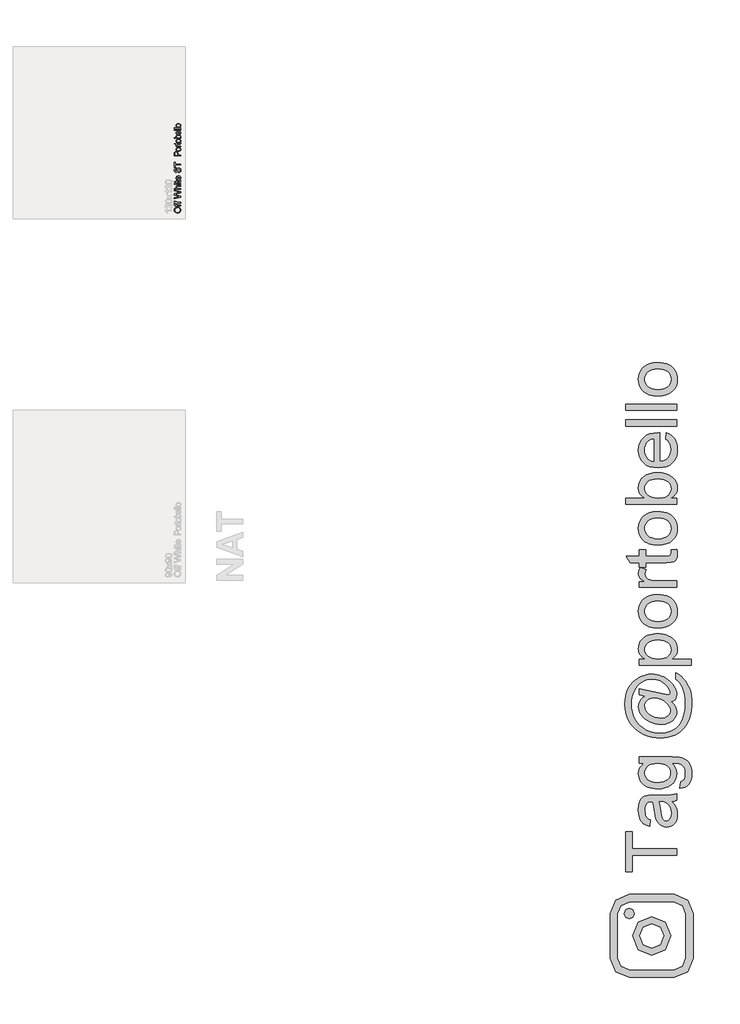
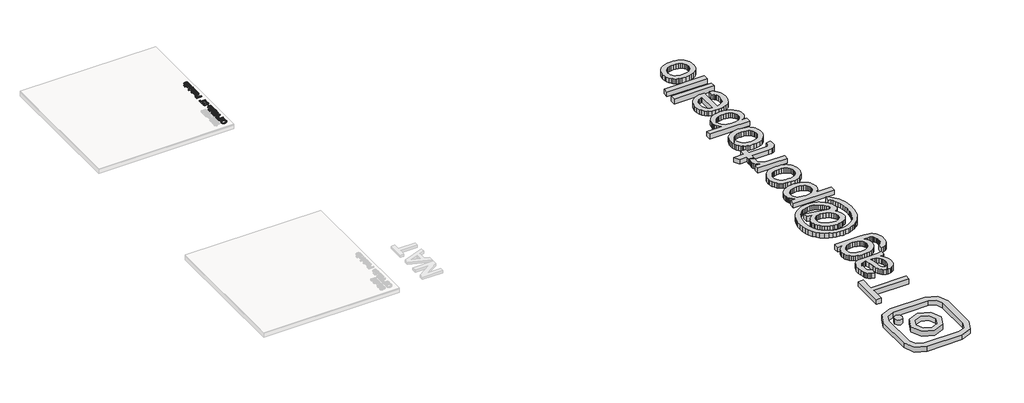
# One storey, part 7 of 19: 5 proxies.
"""IFC4 building model written with IfcOpenShell, lengths in millimetres."""

from ifc_helpers import new_model, si_unit, frame, origin, origin_with_axes, place, context, project, spatial, polyline, outline, extrude, transform, mapped, element, save
from components import generic_models_d67f6705

model = new_model("IFC4")

# Units and contexts
model_context = context("Model", 3, world=origin())
ifc_project = project(units=[si_unit("LENGTHUNIT", "METRE", prefix="MILLI")], contexts=[model_context])

# Site, building, storey
site = spatial("IfcSite", under=ifc_project)
building = spatial("IfcBuilding", under=site)
storey = spatial("IfcBuildingStorey", under=building, Name="PORTOBELLO - SHOWROOM", Elevation=0.0)

# Proxies
placement = place(None, origin())
generic_models_shape = generic_models_d67f6705(model_context)
element("IfcBuildingElementProxy", 1, Name="Blks_Instagram1 : Único", ObjectType="Blks_Instagram1 : Único", at=placement, inside=storey, context=model_context, shape_type="MappedRepresentation", body=[
    mapped(generic_models_shape, transform((18909.981, -12631.2406298, 0.0), x_axis=(-1.0, 0.0, 0.0), y_axis=(0.0, -1.0, 0.0), z_axis=(0.0, 0.0, 1.0))),
])
element("IfcBuildingElementProxy", 2, Name="10mm Arial", ObjectType="10mm Arial", at=placement, inside=storey, context=model_context, shape_type="SweptSolid", body=[
    extrude(outline(polyline([(11482.3367439, -1306.5341901), (11460.1228028, -1303.186464), (11443.316727, -1293.1432855), (11432.7401196, -1277.8087377), (11429.2145838, -1258.5869034), (11430.8700528, -1245.4105966), (11435.8364597, -1233.5954532), (11443.7643167, -1223.7852667), (11454.3041359, -1216.6238305), (11466.9470138, -1212.2460348), (11481.184047, -1210.7867695), (11495.6111526, -1212.3226769), (11508.4318401, -1216.9303988), (11518.9900534, -1224.3554838), (11526.6297361, -1234.34348), (11531.2650493, -1246.0574558), (11532.8101537, -1258.6604798), (11531.1025681, -1272.0391217), (11525.9798113, -1283.9217102), (11517.9048015, -1293.7073712), (11507.3404569, -1300.795231), (11482.3367439, -1306.5341901)]), holes=[polyline([(11482.4593712, -1293.9771514), (11498.1740638, -1291.4663568), (11510.1486227, -1283.9339729), (11517.7269918, -1272.6124045), (11520.2531149, -1258.7340562), (11517.7024664, -1244.6533729), (11510.0505209, -1233.3134104), (11497.7080799, -1225.8362088), (11481.0859451, -1223.3438083), (11460.3619261, -1227.6112394), (11446.6399276, -1240.0824391), (11441.7716226, -1258.513327), (11444.1168703, -1272.0207276), (11451.1526135, -1283.5047772), (11463.6697983, -1291.3590578), (11482.4593712, -1293.9771514)])]), frame((0.0, 0.0, 17.0), z_axis=(0.0, 0.0, 1.0), x_axis=(1.0, 0.0, 0.0)), (0.0, 0.0, 1.0), 20.0),
    extrude(outline(polyline([(11531.2405238, -1151.1408354), (11470.0249598, -1151.1408354), (11470.0249598, -1162.1282443), (11457.467921, -1162.1282443), (11457.467921, -1151.1408354), (11450.0367047, -1151.1408354), (11439.5643306, -1149.8164602), (11432.0840634, -1143.390788), (11429.2145838, -1130.7356474), (11430.5880099, -1119.2822546), (11442.3602338, -1121.1216646), (11441.7716226, -1128.3566771), (11443.8562872, -1136.26614), (11451.63086, -1138.5837966), (11457.467921, -1138.5837966), (11457.467921, -1124.457128), (11470.0249598, -1124.457128), (11470.0249598, -1138.5837966), (11531.2405238, -1138.5837966), (11531.2405238, -1151.1408354)])), frame((0.0, 0.0, 17.0), z_axis=(0.0, 0.0, 1.0), x_axis=(1.0, 0.0, 0.0)), (0.0, 0.0, 1.0), 20.0),
    extrude(outline(polyline([(11531.2405238, -1191.9512114), (11470.0249598, -1191.9512114), (11470.0249598, -1202.9386203), (11457.467921, -1202.9386203), (11457.467921, -1191.9512114), (11450.0367047, -1191.9512114), (11439.5643306, -1190.6268362), (11432.0840634, -1184.201164), (11429.2145838, -1171.5460234), (11430.5880099, -1160.0926306), (11442.3602338, -1161.9320406), (11441.7716226, -1169.1670531), (11443.8562872, -1177.076516), (11451.63086, -1179.3941726), (11457.467921, -1179.3941726), (11457.467921, -1165.267504), (11470.0249598, -1165.267504), (11470.0249598, -1179.3941726), (11531.2405238, -1179.3941726), (11531.2405238, -1191.9512114)])), frame((0.0, 0.0, 17.0), z_axis=(0.0, 0.0, 1.0), x_axis=(1.0, 0.0, 0.0)), (0.0, 0.0, 1.0), 20.0),
    extrude(outline(polyline([(11531.2405238, -1054.6821762), (11430.7842137, -1082.0771221), (11430.7842137, -1069.1276759), (11496.8067691, -1053.2351737), (11517.1874316, -1048.3300805), (11499.1612138, -1043.0816307), (11430.7842137, -1023.166952), (11430.7842137, -1004.5030721), (11480.3501811, -990.033047), (11517.1874316, -979.2663672), (11497.3953802, -974.5084268), (11430.7842137, -958.4932972), (11430.7842137, -945.5193255), (11531.2405238, -972.889746), (11531.2405238, -986.3297015), (11453.7400502, -1010.438235), (11442.9243195, -1013.7982238), (11455.9473421, -1017.5751457), (11531.2405238, -1039.525438), (11531.2405238, -1054.6821762)])), frame((0.0, 0.0, 17.0), z_axis=(0.0, 0.0, 1.0), x_axis=(1.0, 0.0, 0.0)), (0.0, 0.0, 1.0), 20.0),
    extrude(outline(polyline([(11531.2405238, -934.5319166), (11430.7842137, -934.5319166), (11430.7842137, -921.9748778), (11467.719566, -921.9748778), (11458.8536099, -912.1830854), (11455.8982912, -900.1226873), (11459.12339, -886.0205442), (11468.038397, -877.4611564), (11484.5440359, -874.8859825), (11531.2405238, -874.8859825), (11531.2405238, -887.4430212), (11485.8438856, -887.4430212), (11472.6001338, -891.4406722), (11468.45533, -902.7714377), (11471.2512331, -913.0598708), (11478.8296022, -919.9270014), (11492.0488286, -921.9748778), (11531.2405238, -921.9748778), (11531.2405238, -934.5319166)])), frame((0.0, 0.0, 17.0), z_axis=(0.0, 0.0, 1.0), x_axis=(1.0, 0.0, 0.0)), (0.0, 0.0, 1.0), 20.0),
    extrude(outline(polyline([(11443.3412524, -857.6200542), (11430.7842137, -857.6200542), (11430.7842137, -845.0630154), (11443.3412524, -845.0630154), (11443.3412524, -857.6200542)])), frame((0.0, 0.0, 17.0), z_axis=(0.0, 0.0, 1.0), x_axis=(1.0, 0.0, 0.0)), (0.0, 0.0, 1.0), 20.0),
    extrude(outline(polyline([(11531.2405238, -857.6200542), (11457.467921, -857.6200542), (11457.467921, -845.0630154), (11531.2405238, -845.0630154), (11531.2405238, -857.6200542)])), frame((0.0, 0.0, 17.0), z_axis=(0.0, 0.0, 1.0), x_axis=(1.0, 0.0, 0.0)), (0.0, 0.0, 1.0), 20.0),
    extrude(outline(polyline([(11520.7681497, -799.5437499), (11531.6084058, -797.97412), (11532.8101537, -807.3673736), (11530.725489, -817.8887987), (11525.25631, -823.1372485), (11511.0070141, -824.6578274), (11470.0249598, -824.6578274), (11470.0249598, -834.0756065), (11457.467921, -834.0756065), (11457.467921, -824.6578274), (11439.5398051, -824.6578274), (11432.1576398, -812.1007886), (11457.467921, -812.1007886), (11457.467921, -799.5437499), (11470.0249598, -799.5437499), (11470.0249598, -812.1007886), (11510.6391321, -812.1007886), (11517.1138552, -811.438601), (11519.4069863, -809.2926227), (11520.2531149, -805.0129288), (11520.7681497, -799.5437499)])), frame((0.0, 0.0, 17.0), z_axis=(0.0, 0.0, 1.0), x_axis=(1.0, 0.0, 0.0)), (0.0, 0.0, 1.0), 20.0),
    extrude(outline(polyline([(11509.265706, -735.336079), (11510.8353358, -723.0242949), (11520.1120934, -727.4603386), (11527.0466691, -734.5390013), (11531.3692825, -744.1008675), (11532.8101537, -755.9865216), (11530.3238845, -770.7201955), (11522.865077, -782.0570923), (11510.9181093, -789.2859736), (11494.9673591, -791.6956006), (11478.4801143, -789.2614481), (11466.1499361, -781.9589905), (11458.4612024, -770.7753778), (11455.8982912, -756.6977601), (11458.4550711, -743.0585352), (11466.1254107, -732.1600311), (11478.4310634, -725.0139233), (11494.8937827, -722.6318874), (11498.278297, -722.7054638), (11498.278297, -779.1385619), (11507.677682, -776.9649924), (11514.5877322, -771.915812), (11518.8367692, -764.6286828), (11520.2531149, -755.741267), (11517.62889, -743.4294829), (11509.265706, -735.336079)]), holes=[polyline([(11485.7212583, -779.1385619), (11485.7212583, -735.1889262), (11474.3414419, -740.2166468), (11469.9268579, -747.5374985), (11468.45533, -756.7468111), (11473.1519568, -772.2101176), (11478.6425955, -777.075357), (11485.7212583, -779.1385619)])]), frame((0.0, 0.0, 17.0), z_axis=(0.0, 0.0, 1.0), x_axis=(1.0, 0.0, 0.0)), (0.0, 0.0, 1.0), 20.0),
    extrude(outline(polyline([(11496.7086672, -673.9733622), (11496.7086672, -661.4163234), (11509.2779687, -657.3696215), (11517.2242198, -647.4858585), (11520.2531149, -632.4272222), (11517.9599838, -619.3060977), (11511.6569389, -610.8325491), (11503.2324412, -608.0489086), (11495.3965547, -610.1335733), (11489.6943838, -618.6684356), (11484.8996551, -636.9521707), (11478.7069749, -656.6338575), (11469.3627722, -667.3146981), (11456.8793098, -670.8341025), (11442.6668021, -666.4808322), (11432.6358864, -653.7643779), (11429.2145838, -635.1495489), (11432.7953019, -615.2839212), (11443.316727, -602.0401694), (11459.0375509, -597.0614997), (11459.0375509, -609.6185385), (11451.5450209, -611.9239323), (11446.1371556, -616.7309237), (11441.7716226, -634.6590396), (11446.0881047, -652.6362064), (11456.5114279, -658.2770637), (11465.2179684, -654.2794127), (11472.2322518, -633.7761228), (11478.5352966, -611.5560503), (11488.7133652, -599.4036817), (11502.9136102, -595.4918699), (11517.9354583, -599.9922929), (11528.8983418, -612.9417392), (11532.8101537, -631.9367129), (11528.5917734, -654.3652518), (11515.8875819, -668.5532341), (11496.7086672, -673.9733622)])), frame((0.0, 0.0, 17.0), z_axis=(0.0, 0.0, 1.0), x_axis=(1.0, 0.0, 0.0)), (0.0, 0.0, 1.0), 20.0),
    extrude(outline(polyline([(11531.2405238, -551.5422342), (11443.3412524, -551.5422342), (11443.3412524, -584.5044609), (11430.7842137, -584.5044609), (11430.7842137, -506.0229686), (11443.3412524, -506.0229686), (11443.3412524, -538.9851954), (11531.2405238, -538.9851954), (11531.2405238, -551.5422342)])), frame((0.0, 0.0, 17.0), z_axis=(0.0, 0.0, 1.0), x_axis=(1.0, 0.0, 0.0)), (0.0, 0.0, 1.0), 20.0),
])
element("IfcBuildingElementProxy", 3, Name="10mm Arial Narrow", ObjectType="10mm Arial Narrow", at=placement, inside=storey, context=model_context, shape_type="SweptSolid", body=[
    extrude(outline(polyline([(11531.2405238, -407.1065049), (11430.5219201, -407.1065049), (11430.5219201, -375.8096202), (11432.4002408, -359.5139187), (11441.880684, -348.0409326), (11458.8997928, -343.7512541), (11470.9756183, -345.5375625), (11480.6020121, -350.8964877), (11486.9032705, -360.6402765), (11489.00369, -375.5811758), (11489.00369, -397.3595432), (11531.2405238, -397.3595432), (11531.2405238, -407.1065049)]), holes=[polyline([(11477.6322347, -397.3595432), (11477.6322347, -374.3881883), (11473.1014205, -358.5239929), (11459.4328297, -353.4982158), (11449.2670533, -355.9730303), (11443.4671035, -361.9506591), (11441.8933753, -374.6166327), (11441.8933753, -397.3595432), (11477.6322347, -397.3595432)])]), frame((0.0, 0.0, 17.0), z_axis=(0.0, 0.0, 1.0), x_axis=(1.0, 0.0, 0.0)), (0.0, 0.0, 1.0), 20.0),
    extrude(outline(polyline([(11494.6894176, -335.6287861), (11478.0986421, -333.6743172), (11466.1465572, -327.8109106), (11458.9220027, -318.9523439), (11456.5138178, -308.0123947), (11458.9220027, -297.1993591), (11466.1465572, -288.3154097), (11477.9082717, -282.375855), (11493.9279362, -280.3960034), (11511.0898228, -282.3409537), (11523.232278, -288.1758048), (11530.4568326, -297.024853), (11532.8650174, -308.0123947), (11530.4504869, -318.8730229), (11523.2068953, -327.7474538), (11511.2484648, -333.658453), (11494.6894176, -335.6287861)]), holes=[polyline([(11494.6640349, -325.8818244), (11507.2157863, -324.5777876), (11516.0870444, -320.665677), (11521.3603029, -314.8244802), (11523.1180558, -307.7331849), (11521.3444387, -301.0131117), (11516.0235876, -295.3210384), (11507.1364653, -291.4374834), (11494.6640349, -290.142965), (11482.1503576, -291.4470019), (11473.2917908, -295.3591125), (11468.0185323, -301.2003092), (11466.2607794, -308.2916046), (11468.0280508, -315.0592703), (11473.3298649, -320.7418251), (11482.1979501, -324.5968246), (11494.6640349, -325.8818244)])]), frame((0.0, 0.0, 17.0), z_axis=(0.0, 0.0, 1.0), x_axis=(1.0, 0.0, 0.0)), (0.0, 0.0, 1.0), 20.0),
    extrude(outline(polyline([(11523.1180558, -208.9182846), (11532.8650174, -207.293791), (11532.8650174, -214.6547776), (11530.7455609, -222.929542), (11524.9456111, -227.2446031), (11510.2997859, -228.4122079), (11467.8852731, -228.4122079), (11467.8852731, -236.5346759), (11464.6362858, -236.5346759), (11469.5097667, -238.1591695), (11467.8852731, -245.7232179), (11470.2077913, -251.8023776), (11476.6930743, -255.6732413), (11492.1003809, -257.6530929), (11531.2405238, -257.6530929), (11531.2405238, -267.4000545), (11458.1383114, -267.4000545), (11458.1383114, -257.6530929), (11467.8345076, -257.6530929), (11458.7474965, -251.4089455), (11456.5138178, -245.012502), (11458.1383114, -236.5346759), (11458.1383114, -228.4122079), (11441.8933753, -228.4122079), (11433.7709073, -218.6652462), (11458.1383114, -218.6652462), (11458.1383114, -208.9182846), (11467.8852731, -208.9182846), (11467.8852731, -218.6652462), (11512.5334646, -218.6652462), (11520.5290191, -217.802234), (11523.1180558, -213.1825803), (11523.1180558, -208.9182846)])), frame((0.0, 0.0, 17.0), z_axis=(0.0, 0.0, 1.0), x_axis=(1.0, 0.0, 0.0)), (0.0, 0.0, 1.0), 20.0),
    extrude(outline(polyline([(11494.6894176, -202.4203101), (11478.0986421, -200.4658413), (11466.1465572, -194.6024347), (11458.9220027, -185.7438679), (11456.5138178, -174.8039188), (11458.9220027, -163.9908832), (11466.1465572, -155.1069338), (11477.9082717, -149.167379), (11493.9279362, -147.1875274), (11511.0898228, -149.1324778), (11523.232278, -154.9673289), (11530.4568326, -163.8163771), (11532.8650174, -174.8039188), (11530.4504869, -185.664547), (11523.2068953, -194.5389779), (11511.2484648, -200.4499771), (11494.6894176, -202.4203101)]), holes=[polyline([(11494.6640349, -192.6733485), (11507.2157863, -191.3693116), (11516.0870444, -187.457201), (11521.3603029, -181.6160043), (11523.1180558, -174.524709), (11521.3444387, -167.8046358), (11516.0235876, -162.1125625), (11507.1364653, -158.2290074), (11494.6640349, -156.9344891), (11482.1503576, -158.238526), (11473.2917908, -162.1506365), (11468.0185323, -167.9918333), (11466.2607794, -175.0831286), (11468.0280508, -181.8507944), (11473.3298649, -187.5333492), (11482.1979501, -191.3883487), (11494.6640349, -192.6733485)])]), frame((0.0, 0.0, 17.0), z_axis=(0.0, 0.0, 1.0), x_axis=(1.0, 0.0, 0.0)), (0.0, 0.0, 1.0), 20.0),
    extrude(outline(polyline([(11531.2405238, -124.4446169), (11531.2405238, -134.1915786), (11430.5219201, -134.1915786), (11430.5219201, -124.4446169), (11465.9308042, -124.4446169), (11458.8490274, -117.0455562), (11456.5138178, -107.8443229), (11460.7146567, -94.9625962), (11473.4440871, -85.6852147), (11494.1309979, -82.2077831), (11510.5853414, -84.1400421), (11522.7880805, -89.9368191), (11530.3457832, -98.3099414), (11532.8650174, -107.9712364), (11530.250598, -117.3120747), (11522.4834879, -124.4446169), (11531.2405238, -124.4446169)]), holes=[polyline([(11494.1309979, -124.4446169), (11511.3785512, -122.3632345), (11520.1102043, -116.4744452), (11523.1180558, -108.0220018), (11521.3285745, -102.0792742), (11515.9601308, -96.8409169), (11494.5371213, -91.9547447), (11473.1014205, -96.6632379), (11467.9709397, -101.9079409), (11466.2607794, -108.2250635), (11468.0502607, -114.2026924), (11473.4187044, -119.494988), (11494.1309979, -124.4446169)])]), frame((0.0, 0.0, 17.0), z_axis=(0.0, 0.0, 1.0), x_axis=(1.0, 0.0, 0.0)), (0.0, 0.0, 1.0), 20.0),
    extrude(outline(polyline([(11508.4976133, -30.2239876), (11510.1221069, -20.477026), (11520.0086735, -24.1765563), (11527.1285244, -29.9955432), (11531.4308941, -37.6991965), (11532.8650174, -47.0527261), (11530.4504869, -58.6462801), (11523.2068953, -67.7904023), (11511.400761, -73.7299571), (11495.2986027, -75.7098087), (11478.631679, -73.7204386), (11466.4511498, -67.7523282), (11458.9981508, -58.7382924), (11456.5138178, -47.6111458), (11458.9124841, -36.9281966), (11466.1084832, -28.1806792), (11477.8479878, -22.3458282), (11493.8771708, -20.4008778), (11497.126158, -20.477026), (11497.126158, -65.962847), (11516.5693159, -59.9598355), (11521.4808708, -54.0297992), (11523.1180558, -46.9258125), (11519.4629451, -36.7473448), (11508.4976133, -30.2239876)]), holes=[polyline([(11487.3791964, -65.3028965), (11487.3791964, -30.2239876), (11473.1141119, -34.4882833), (11467.9741126, -40.3136159), (11466.2607794, -47.5349976), (11471.9718898, -59.7440824), (11487.3791964, -65.3028965)])]), frame((0.0, 0.0, 17.0), z_axis=(0.0, 0.0, 1.0), x_axis=(1.0, 0.0, 0.0)), (0.0, 0.0, 1.0), 20.0),
    extrude(outline(polyline([(11531.2405238, -7.4810771), (11430.5219201, -7.4810771), (11430.5219201, 2.2658846), (11531.2405238, 2.2658846), (11531.2405238, -7.4810771)])), frame((0.0, 0.0, 17.0), z_axis=(0.0, 0.0, 1.0), x_axis=(1.0, 0.0, 0.0)), (0.0, 0.0, 1.0), 20.0),
    extrude(outline(polyline([(11531.2405238, 18.5108207), (11430.5219201, 18.5108207), (11430.5219201, 28.2577823), (11531.2405238, 28.2577823), (11531.2405238, 18.5108207)])), frame((0.0, 0.0, 17.0), z_axis=(0.0, 0.0, 1.0), x_axis=(1.0, 0.0, 0.0)), (0.0, 0.0, 1.0), 20.0),
    extrude(outline(polyline([(11494.6894176, 39.6292376), (11478.0986421, 41.5837065), (11466.1465572, 47.4471131), (11458.9220027, 56.3056798), (11456.5138178, 67.2456289), (11458.9220027, 78.0586645), (11466.1465572, 86.9426139), (11477.9082717, 92.8821687), (11493.9279362, 94.8620203), (11511.0898228, 92.9170699), (11523.232278, 87.0822189), (11530.4568326, 78.2331707), (11532.8650174, 67.2456289), (11530.4504869, 56.3850008), (11523.2068953, 47.5105699), (11511.2484648, 41.5995706), (11494.6894176, 39.6292376)]), holes=[polyline([(11494.6640349, 49.3761992), (11507.2157863, 50.6802361), (11516.0870444, 54.5923467), (11521.3603029, 60.4335434), (11523.1180558, 67.5248388), (11521.3444387, 74.2449119), (11516.0235876, 79.9369853), (11507.1364653, 83.8205403), (11494.6640349, 85.1150586), (11482.1503576, 83.8110218), (11473.2917908, 79.8989112), (11468.0185323, 74.0577144), (11466.2607794, 66.9664191), (11468.0280508, 60.1987533), (11473.3298649, 54.5161985), (11482.1979501, 50.6611991), (11494.6640349, 49.3761992)])]), frame((0.0, 0.0, 17.0), z_axis=(0.0, 0.0, 1.0), x_axis=(1.0, 0.0, 0.0)), (0.0, 0.0, 1.0), 20.0),
])
element("IfcBuildingElementProxy", 4, Name="80mm Arial", ObjectType="80mm Arial", at=placement, inside=storey, context=model_context, shape_type="SweptSolid", body=[
    extrude(outline(polyline([(19301.6939847, -11363.1133966), (18602.2288737, -11363.1133966), (18602.2288737, -11625.4128133), (18502.3052864, -11625.4128133), (18502.3052864, -11000.8903927), (18602.2288737, -11000.8903927), (18602.2288737, -11263.1898093), (19301.6939847, -11263.1898093), (19301.6939847, -11363.1133966)])), origin_with_axes(), (0.0, 0.0, 1.0), 100.0),
    extrude(outline(polyline([(19226.7512942, -10526.2533531), (19267.6867873, -10573.9951647), (19282.8485328, -10598.3966706), (19294.4729442, -10623.1519099), (19309.2565609, -10674.8457774), (19314.1844331, -10730.198956), (19311.2203912, -10774.6900796), (19302.3282653, -10813.7044344), (19287.5080555, -10847.2420202), (19266.7597618, -10875.3028372), (19241.4007362, -10897.4599656), (19212.7483306, -10913.286486), (19180.8025451, -10922.7823982), (19145.5633796, -10925.9477022), (19104.1399784, -10921.1662025), (19066.5222607, -10906.8217031), (19034.3203234, -10884.6950689), (19009.1442633, -10856.5671646), (18990.1158458, -10823.511388), (18976.3568362, -10786.6011371), (18961.3292655, -10700.1438145), (18945.5210417, -10597.9758498), (18926.9805324, -10526.8388428), (18904.7319211, -10526.2533531), (18880.5072819, -10527.9732293), (18860.137117, -10533.1328579), (18843.6214265, -10541.7322388), (18830.9602102, -10553.7713722), (18818.3233893, -10574.5806544), (18809.2970887, -10599.9274824), (18803.8813084, -10629.811856), (18802.0760482, -10664.2337754), (18806.8819434, -10723.7585686), (18812.8893124, -10746.7878328), (18821.299629, -10765.3283422), (18832.7715692, -10780.5632739), (18847.9638089, -10793.6758052), (18866.8763482, -10804.6659361), (18889.5091871, -10813.5336665), (18877.0187387, -10913.4572538), (18822.3730269, -10896.1121194), (18799.4413443, -10884.237655), (18779.4371105, -10870.2285925), (18761.9578013, -10853.4811456), (18746.6008926, -10833.3915279), (18733.3663843, -10809.9597394), (18722.2542764, -10783.1857802), (18707.1779148, -10721.7825406), (18702.152461, -10651.3530004), (18706.592425, -10583.8021183), (18719.9123173, -10530.2541998), (18739.9409465, -10489.8798011), (18764.5071214, -10461.8494784), (18794.8794032, -10443.2601783), (18832.326353, -10431.2088472), (18866.8702494, -10427.5495361), (18919.7594919, -10426.3297658), (19044.0784862, -10426.3297658), (19152.3696981, -10425.0612046), (19217.6762028, -10421.2555211), (19260.5877238, -10413.7417357), (19301.6939847, -10401.3488689), (19301.6939847, -10501.2724562), (19266.9549251, -10517.2758433), (19226.7512942, -10526.2533531)]), holes=[polyline([(19026.9041197, -10526.2533531), (19043.5417873, -10593.3895133), (19057.5447509, -10687.4582029), (19065.2049087, -10739.2984429), (19073.7433012, -10773.4276173), (19084.818816, -10795.7982056), (19100.0903408, -10812.362687), (19118.3868961, -10822.608758), (19138.5375023, -10826.0241149), (19154.0651789, -10824.1639652), (19168.2511081, -10818.5835158), (19181.0952899, -10809.2827669), (19192.5977244, -10796.2617183), (19202.07534, -10779.6423473), (19208.8450655, -10759.5466307), (19214.2608458, -10708.9261611), (19208.2839711, -10655.2562656), (19200.8128777, -10630.7632769), (19190.3533469, -10607.8315943), (19163.9331211, -10569.3844327), (19132.4874414, -10542.6470666), (19100.0903408, -10530.7908988), (19055.2027918, -10526.8388428), (19026.9041197, -10526.2533531)])]), origin_with_axes(), (0.0, 0.0, 1.0), 100.0),
    extrude(outline(polyline([(19351.6557784, -10313.9157301), (19364.1462268, -10213.9921428), (19380.9790576, -10209.7717374), (19395.3723478, -10202.9654188), (19407.3260973, -10193.5731871), (19416.840306, -10181.5950422), (19426.5740734, -10162.2128913), (19433.5267644, -10139.5861513), (19439.0889172, -10084.5989038), (19437.5154135, -10053.3971781), (19432.7949022, -10025.9523452), (19424.9273834, -10002.264405), (19413.9128572, -9982.3333574), (19400.056266, -9965.7444806), (19383.6625524, -9952.0830526), (19364.7317165, -9941.3490735), (19343.2637583, -9933.5425433), (19300.2790511, -9928.1267629), (19226.7512942, -9926.7118293), (19259.5387213, -9959.9627691), (19282.9583121, -9997.0681832), (19297.0100666, -10038.0280717), (19301.6939847, -10082.8424345), (19296.2416112, -10137.6284198), (19279.8844908, -10185.8642384), (19267.6166505, -10207.5258352), (19252.6226234, -10227.5498902), (19214.4560091, -10262.6853753), (19168.66583, -10290.5632267), (19118.5332685, -10310.4759777), (19064.0583246, -10322.4236283), (19005.2409982, -10326.4061785), (18964.0920453, -10324.6192149), (18924.5653871, -10319.2583242), (18886.6610234, -10310.3235064), (18850.3789542, -10297.8147614), (18816.9267523, -10281.9211537), (18787.5119902, -10262.8317477), (18762.134668, -10240.5465434), (18740.7947857, -10215.0655407), (18723.8887686, -10186.7973628), (18711.8130421, -10156.1506326), (18704.5676063, -10123.1253503), (18702.152461, -10087.7215159), (18707.6170321, -10040.9921136), (18724.0107457, -9998.5806985), (18751.3336016, -9960.4872704), (18789.5855998, -9926.7118293), (18714.6429094, -9926.7118293), (18714.6429094, -9826.788242), (19221.4818863, -9826.788242), (19284.9892297, -9828.4959205), (19338.506654, -9833.618956), (19382.034159, -9842.1573485), (19415.5717448, -9854.1110979), (19442.6201524, -9869.7668504), (19466.6801226, -9889.4112519), (19487.7516555, -9913.0443025), (19505.8347509, -9940.6660021), (19520.3500181, -9971.9958036), (19530.7180661, -10006.7531598), (19536.9388949, -10044.9380707), (19539.0125045, -10086.5505363), (19536.0911545, -10135.5060194), (19527.3271046, -10179.5214326), (19512.7203546, -10218.5967759), (19492.2709046, -10252.7320492), (19465.9543593, -10280.304958), (19433.7463231, -10299.6932078), (19395.6467961, -10310.8967984), (19351.6557784, -10313.9157301)]), holes=[polyline([(18998.4102842, -10226.4825912), (19047.8170824, -10223.817393), (19090.0638285, -10215.8217983), (19125.1505227, -10202.4958072), (19153.0771649, -10183.8394197), (19174.3804541, -10161.1577899), (19189.5970893, -10135.7560724), (19198.7270704, -10107.6342669), (19201.7703974, -10076.7923735), (19198.7453669, -10046.2554227), (19189.6702755, -10018.267792), (19174.5451231, -9992.8294813), (19153.3699098, -9969.9404906), (19125.7177159, -9951.0279513), (19091.1616218, -9937.5189946), (19049.7016275, -9929.4136206), (19001.3377331, -9926.7118293), (18954.9925585, -9929.4929057), (18914.7096426, -9937.8361349), (18880.4889854, -9951.7415169), (18852.3305868, -9971.2090518), (18830.3442262, -9994.5920494), (18814.6396829, -10020.24382), (18805.2169569, -10048.1643633), (18802.0760482, -10078.3536796), (18805.1681661, -10108.0367911), (18814.4445196, -10135.4145367), (18829.9051088, -10160.4869163), (18851.5499338, -10183.2539299), (18879.2814127, -10202.1664692), (18913.0019641, -10215.6754259), (18952.711588, -10223.7807999), (18998.4102842, -10226.4825912)])]), origin_with_axes(), (0.0, 0.0, 1.0), 100.0),
])
element("IfcBuildingElementProxy", 5, Name="80mm Arial", ObjectType="80mm Arial", at=placement, inside=storey, context=model_context, shape_type="SweptSolid", body=[
    extrude(outline(polyline([(19210.1624174, -8955.7052888), (19247.4629948, -8992.9570753), (19276.6155063, -9034.4536627), (19295.4243651, -9078.1458368), (19301.6939847, -9121.9843833), (19299.9009223, -9145.9162776), (19294.521735, -9169.5066362), (19285.5564229, -9192.7554591), (19273.004986, -9215.6627463), (19256.7332495, -9237.3319667), (19236.6070387, -9256.8665889), (19212.6263536, -9274.2666129), (19184.7911941, -9289.5320389), (19154.2969353, -9301.9553999), (19122.338952, -9310.8292293), (19088.9172444, -9316.1535268), (19054.0318123, -9317.9282927), (19010.1932658, -9315.1777106), (18966.3059285, -9306.9259641), (18922.3698004, -9293.1730534), (18878.3848815, -9273.9189784), (18837.1200505, -9250.5725738), (18801.344186, -9224.5426745), (18771.0572882, -9195.8292804), (18746.2593569, -9164.4323915), (18726.9625899, -9131.9316105), (18713.1791849, -9099.9065399), (18704.909142, -9068.3571797), (18702.152461, -9037.28353), (18703.7198659, -9014.120091), (18708.4220806, -8991.4689555), (18727.2309394, -8947.7035953), (18741.4107698, -8927.0772786), (18758.8717824, -8907.9390818), (18803.6373543, -8874.1270476), (18714.6429094, -8855.7817015), (18714.6429094, -8755.8581142), (19081.1595049, -8838.6073349), (19165.665195, -8855.7817015), (19179.4486, -8852.9762297), (19191.1339999, -8844.5598142), (19199.111298, -8832.1913429), (19201.7703974, -8817.5297032), (19199.7943694, -8801.8556542), (19193.8662855, -8783.9128323), (19170.1539499, -8741.22087), (19147.7894605, -8711.6231423), (19121.8754393, -8685.2822016), (19092.4118864, -8662.1980477), (19059.3988019, -8642.3706806), (19024.3365031, -8626.4465786), (18988.7253076, -8615.0722201), (18952.5652155, -8608.247605), (18915.8562267, -8605.9727332), (18873.4326139, -8608.9001821), (18832.4239346, -8617.6825286), (18792.830189, -8632.3197729), (18754.6513769, -8652.8119148), (18719.0523792, -8679.1162624), (18687.1980764, -8711.1901239), (18659.0884687, -8749.0334991), (18634.7235559, -8792.646388), (18615.0425612, -8840.3577054), (18600.9847079, -8890.4963657), (18592.5499959, -8943.0623691), (18589.7384252, -8998.0557154), (18593.3062535, -9060.7885047), (18604.0097384, -9120.7646129), (18621.8488798, -9177.9840401), (18646.8236778, -9232.4467864), (18678.4584219, -9282.5427548), (18716.2774016, -9326.6618484), (18760.2806171, -9364.8040674), (18810.4680683, -9396.9694116), (18864.6990582, -9422.499205), (18920.8328898, -9440.7347718), (18978.8695632, -9451.6761119), (19038.8090783, -9455.3232252), (19100.4989639, -9451.712705), (19157.7366877, -9440.8811443), (19210.5222497, -9422.828543), (19258.8556499, -9397.5549013), (19301.9501365, -9365.4444468), (19339.0189575, -9326.8814071), (19370.062113, -9281.8657822), (19395.0796029, -9230.3975722), (19414.3336779, -9174.2332463), (19428.0865887, -9115.1292739), (19436.3383351, -9053.0856549), (19439.0889172, -8988.1023893), (19436.3566316, -8919.8562381), (19428.1597749, -8857.3917983), (19414.4983469, -8800.7090701), (19395.3723478, -8749.8080532), (19372.3430835, -8704.8107249), (19346.9718602, -8665.8390622), (19319.2586778, -8632.8930649), (19289.2035363, -8605.9727332), (19289.2035363, -8506.049146), (19318.5146179, -8522.2781905), (19348.0940489, -8543.447305), (19377.9418295, -8569.5564894), (19408.0579595, -8600.6057437), (19436.7286616, -8635.7168333), (19462.2401585, -8674.0115235), (19484.5924502, -8715.4898144), (19503.7855367, -8760.1517058), (19519.1973352, -8808.7717521), (19530.2057626, -8862.1245073), (19536.810819, -8920.2099715), (19539.0125045, -8983.0281447), (19537.0669708, -9041.8759653), (19531.2303697, -9098.3940246), (19521.5027011, -9152.5823225), (19507.8839651, -9204.4408591), (19490.3680629, -9253.2621675), (19468.9488955, -9298.3387808), (19443.6264629, -9339.6706992), (19414.4007653, -9377.2579227), (19382.034159, -9410.7650143), (19347.2890005, -9439.8565372), (19310.1652898, -9464.5324914), (19270.6630269, -9484.792877), (19218.1153201, -9504.6873314), (19163.5183992, -9518.897656), (19106.872264, -9527.4238508), (19048.1769146, -9530.2659157), (18982.4190949, -9526.8749541), (18918.2469766, -9516.7020694), (18855.6605598, -9499.7472615), (18794.6598445, -9476.0105304), (18725.1146378, -9439.5515946), (18664.217603, -9396.1399677), (18611.9687399, -9345.7756499), (18568.3680487, -9288.458641), (18534.001019, -9224.4328952), (18509.4531406, -9153.9423665), (18494.7244136, -9076.9870549), (18489.814838, -8993.5669605), (18493.2545904, -8928.1384788), (18503.5738475, -8866.1253541), (18520.7726095, -8807.5275863), (18544.8508763, -8752.3451756), (18575.7476593, -8701.6881128), (18613.4019701, -8656.6663891), (18657.8138086, -8617.2800044), (18708.9831749, -8583.5289588), (18756.8591613, -8560.560683), (18806.8087572, -8544.1547718), (18858.8319628, -8534.311225), (18912.9287779, -8531.0300428), (18951.659536, -8532.7316224), (18989.2985997, -8537.8363613), (19025.8459689, -8546.3442596), (19061.3016436, -8558.2553171), (19095.6656239, -8573.5695338), (19128.9379097, -8592.2869099), (19161.118501, -8614.4074452), (19192.2073979, -8639.9311399), (19240.1077796, -8689.7465611), (19274.322338, -8741.8063597), (19286.2974334, -8768.6779006), (19294.851073, -8796.1105358), (19299.9832568, -8824.1042654), (19301.6939847, -8852.6590894), (19298.8153267, -8885.9832154), (19290.1793526, -8912.1838826), (19276.2251797, -8931.8465807), (19257.3919255, -8945.5567994), (19238.6562529, -8951.6068604), (19210.1624174, -8955.7052888)]), holes=[polyline([(19055.5931184, -9218.0047054), (19088.3073592, -9215.8152176), (19117.1671258, -9209.2467543), (19142.172418, -9198.2993154), (19163.3232359, -9182.9729009), (19180.1438691, -9164.8166192), (19192.158607, -9145.3795786), (19199.3674498, -9124.6617792), (19201.7703974, -9102.6632209), (19197.5255966, -9071.6078677), (19184.7911941, -9038.9424176), (19163.7135624, -9006.2281768), (19134.4390739, -8975.0264512), (19096.5774022, -8947.3376642), (19049.7382207, -8925.1622391), (18998.3127026, -8910.5981811), (18946.6920213, -8905.7434951), (18914.2644264, -8908.0183668), (18885.6791082, -8914.842982), (18860.9360666, -8926.2173405), (18840.0353016, -8942.1414425), (18823.4281283, -8961.334529), (18811.5658616, -8982.5158411), (18804.4485016, -9005.685379), (18802.0760482, -9030.8431425), (18806.198872, -9064.3624318), (18818.5673434, -9095.8325069), (18840.0353016, -9125.8144622), (18871.4565859, -9154.869392), (18911.7821938, -9180.6309418), (18959.9631227, -9200.7327572), (19009.9249163, -9213.6867184), (19055.5931184, -9218.0047054)])]), origin_with_axes(), (0.0, 0.0, 1.0), 100.0),
    extrude(outline(polyline([(19526.5220561, -8393.6351103), (18714.6429094, -8393.6351103), (18714.6429094, -8293.711523), (18812.6148641, -8293.711523), (18764.2875627, -8261.1192591), (18745.3018372, -8243.3594028), (18729.7680617, -8224.6237302), (18717.6862364, -8204.3755423), (18709.0563611, -8182.0781403), (18703.878436, -8157.731524), (18702.152461, -8131.3356936), (18704.5676063, -8096.4868546), (18711.8130421, -8063.7604161), (18723.8887686, -8033.1563779), (18740.7947857, -8004.6747402), (18762.0919761, -7978.9375857), (18787.3412224, -7956.5669975), (18816.5425246, -7937.5629754), (18849.6958828, -7921.9255195), (18885.6669105, -7909.7156182), (18923.3212213, -7900.9942602), (18962.6588152, -7895.7614454), (19003.6796921, -7894.0171738), (19047.5365352, -7895.9871029), (19089.136803, -7901.8968903), (19128.4804958, -7911.7465359), (19165.5676133, -7925.5360397), (19199.4284383, -7943.0763374), (19229.0932533, -7964.1783645), (19254.5620583, -7988.842121), (19275.8348532, -8017.067607), (19292.6127944, -8047.470383), (19304.5970381, -8078.6660098), (19311.7875844, -8110.6544873), (19314.1844331, -8143.4358155), (19312.5804351, -8167.0200753), (19307.7684411, -8189.372367), (19299.748451, -8210.4926906), (19288.5204649, -8230.3810462), (19259.4655351, -8265.486037), (19223.6286821, -8293.711523), (19526.5220561, -8293.711523), (19526.5220561, -8393.6351103)]), holes=[polyline([(19012.8523652, -8293.711523), (19061.0088987, -8291.0097316), (19102.4322999, -8282.9043576), (19137.1225687, -8269.395401), (19165.0797052, -8250.4828617), (19186.5964542, -8227.715848), (19201.9655607, -8202.6434684), (19211.1870245, -8175.2657229), (19214.2608458, -8145.5826113), (19211.0772452, -8115.4725802), (19201.5264433, -8087.5947288), (19185.6084402, -8061.9490571), (19163.3232359, -8038.5355652), (19134.35369, -8019.0253384), (19098.3826623, -8005.0894621), (19055.4101528, -7996.7279363), (19005.4361614, -7993.9407611), (18957.6943498, -7996.660849), (18916.3441349, -8004.8211126), (18881.3855166, -8018.4215521), (18852.8184949, -8037.4621673), (18830.6186745, -8060.2840706), (18814.7616599, -8085.2283743), (18805.2474512, -8112.2950784), (18802.0760482, -8141.4841829), (18805.4487133, -8170.5818047), (18815.5667083, -8197.9595503), (18832.4300335, -8223.6174196), (18856.0386886, -8247.5554128), (18886.0755336, -8267.748711), (18922.223428, -8282.1724954), (18964.4823719, -8290.8267661), (19012.8523652, -8293.711523)])]), origin_with_axes(), (0.0, 0.0, 1.0), 100.0),
    extrude(outline(polyline([(19008.168447, -7806.5840349), (18932.140161, -7801.1804522), (18898.0689256, -7794.4259739), (18866.6262953, -7784.9697043), (18837.8122702, -7772.8116433), (18811.6268501, -7757.9517909), (18788.0700352, -7740.3901473), (18767.1418253, -7720.1267123), (18738.7089784, -7682.0454819), (18718.3998021, -7640.0121955), (18706.2142962, -7594.0268532), (18702.152461, -7544.089455), (18707.0986297, -7488.9619339), (18721.9371361, -7439.1160185), (18746.66798, -7394.5517086), (18781.2911614, -7355.2690044), (18824.6357009, -7323.2073407), (18875.5306189, -7300.3061523), (18933.9759153, -7286.5654393), (18999.9715903, -7281.9852016), (19053.4585202, -7284.0100204), (19100.9197847, -7290.0844768), (19142.3553835, -7300.2085707), (19177.7653169, -7314.3823022), (19208.3510585, -7332.4288046), (19235.3140821, -7354.1712111), (19258.6543878, -7379.6095218), (19278.3719756, -7408.7437367), (19294.0399257, -7440.4394693), (19305.2313187, -7473.5623332), (19311.9461545, -7508.1123285), (19314.1844331, -7544.089455), (19309.2565609, -7600.0220245), (19294.4729442, -7650.3314527), (19269.8335831, -7695.0177396), (19235.3384775, -7734.0808851), (19191.5731173, -7765.8010132), (19139.1229921, -7788.4582475), (19077.988102, -7802.052588), (19008.168447, -7806.5840349)]), holes=[polyline([(19007.9732838, -7706.6604476), (19056.4408587, -7703.7695919), (19098.4070577, -7695.0970247), (19133.8718807, -7680.642746), (19162.8353278, -7660.4067558), (19185.3339919, -7635.7917901), (19201.4044663, -7608.2005847), (19211.0467509, -7577.6331397), (19214.2608458, -7544.089455), (19211.0284544, -7510.7165382), (19201.3312801, -7480.2710702), (19185.1693229, -7452.753051), (19162.5425829, -7428.1624807), (19133.2924898, -7407.9264905), (19097.2604736, -7393.4722119), (19054.4465342, -7384.7996446), (19004.8506717, -7381.9087889), (18957.9200074, -7384.8179412), (18917.0516017, -7393.5453981), (18882.2454547, -7408.0911595), (18853.5015663, -7428.4552256), (18831.0029022, -7453.1372787), (18814.9324278, -7480.6370013), (18805.2901431, -7510.9543934), (18802.0760482, -7544.089455), (18805.2779454, -7577.6331397), (18814.8836369, -7608.2005847), (18830.8931228, -7635.7917901), (18853.3064031, -7660.4067558), (18882.1844662, -7680.642746), (18917.5883006, -7695.0970247), (18959.5179065, -7703.7695919), (19007.9732838, -7706.6604476)])]), origin_with_axes(), (0.0, 0.0, 1.0), 100.0),
    extrude(outline(polyline([(19301.6939847, -7169.5711659), (18714.6429094, -7169.5711659), (18714.6429094, -7082.138027), (18801.4905585, -7082.138027), (18751.1384383, -7049.8385081), (18733.7201177, -7034.6401695), (18721.4736233, -7020.0761115), (18706.9827516, -6990.2161333), (18702.152461, -6957.6238694), (18704.0796981, -6932.8381359), (18709.8614096, -6907.857239), (18719.4975954, -6882.681179), (18732.9882555, -6857.3099556), (18822.5681902, -6890.6828725), (18807.1990837, -6925.8122586), (18802.0760482, -6960.9416448), (18807.0039205, -6990.7772276), (18821.7875371, -7017.4414075), (18845.3047095, -7038.982552), (18876.4332489, -7053.4490283), (18932.2499403, -7065.5979411), (18993.1408763, -7069.6475786), (19301.6939847, -7069.6475786), (19301.6939847, -7169.5711659)])), origin_with_axes(), (0.0, 0.0, 1.0), 100.0),
    extrude(outline(polyline([(19218.3592742, -6582.5200906), (19304.6214336, -6570.0296422), (19311.7936832, -6609.5989924), (19314.1844331, -6644.7771694), (19310.0372139, -6692.7385396), (19297.5955563, -6728.5022064), (19278.4207664, -6753.7758481), (19254.0741501, -6770.2671433), (19212.2604225, -6779.3422347), (19140.6842982, -6782.3672652), (18814.5664967, -6782.3672652), (18814.5664967, -6857.3099556), (18714.6429094, -6857.3099556), (18714.6429094, -6782.3672652), (18571.9785689, -6782.3672652), (18513.2344287, -6682.4436779), (18714.6429094, -6682.4436779), (18714.6429094, -6582.5200906), (18814.5664967, -6582.5200906), (18814.5664967, -6682.4436779), (19137.7568493, -6682.4436779), (19170.641858, -6681.1263259), (19189.279949, -6677.1742699), (19199.5992062, -6670.2703697), (19207.5277135, -6660.097485), (19212.5775627, -6645.6797994), (19214.2608458, -6626.0414968), (19218.3592742, -6582.5200906)])), origin_with_axes(), (0.0, 0.0, 1.0), 100.0),
    extrude(outline(polyline([(19008.168447, -6507.5774001), (18932.140161, -6502.1738174), (18898.0689256, -6495.4193391), (18866.6262953, -6485.9630695), (18837.8122702, -6473.8050085), (18811.6268501, -6458.9451561), (18788.0700352, -6441.3835125), (18767.1418253, -6421.1200775), (18738.7089784, -6383.0388471), (18718.3998021, -6341.0055607), (18706.2142962, -6295.0202184), (18702.152461, -6245.0828202), (18707.0986297, -6189.9552991), (18721.9371361, -6140.1093836), (18746.66798, -6095.5450738), (18781.2911614, -6056.2623696), (18824.6357009, -6024.2007059), (18875.5306189, -6001.2995175), (18933.9759153, -5987.5588045), (18999.9715903, -5982.9785668), (19053.4585202, -5985.0033856), (19100.9197847, -5991.077842), (19142.3553835, -6001.2019359), (19177.7653169, -6015.3756674), (19208.3510585, -6033.4221697), (19235.3140821, -6055.1645763), (19258.6543878, -6080.602887), (19278.3719756, -6109.7371019), (19294.0399257, -6141.4328345), (19305.2313187, -6174.5556984), (19311.9461545, -6209.1056936), (19314.1844331, -6245.0828202), (19309.2565609, -6301.0153897), (19294.4729442, -6351.3248179), (19269.8335831, -6396.0111048), (19235.3384775, -6435.0742503), (19191.5731173, -6466.7943784), (19139.1229921, -6489.4516127), (19077.988102, -6503.0459532), (19008.168447, -6507.5774001)]), holes=[polyline([(19007.9732838, -6407.6538128), (19056.4408587, -6404.7629571), (19098.4070577, -6396.0903899), (19133.8718807, -6381.6361112), (19162.8353278, -6361.400121), (19185.3339919, -6336.7851553), (19201.4044663, -6309.1939499), (19211.0467509, -6278.6265049), (19214.2608458, -6245.0828202), (19211.0284544, -6211.7099034), (19201.3312801, -6181.2644353), (19185.1693229, -6153.7464162), (19162.5425829, -6129.1558459), (19133.2924898, -6108.9198557), (19097.2604736, -6094.465577), (19054.4465342, -6085.7930098), (19004.8506717, -6082.9021541), (18957.9200074, -6085.8113064), (18917.0516017, -6094.5387633), (18882.2454547, -6109.0845247), (18853.5015663, -6129.4485908), (18831.0029022, -6154.1306439), (18814.9324278, -6181.6303665), (18805.2901431, -6211.9477586), (18802.0760482, -6245.0828202), (18805.2779454, -6278.6265049), (18814.8836369, -6309.1939499), (18830.8931228, -6336.7851553), (18853.3064031, -6361.400121), (18882.1844662, -6381.6361112), (18917.5883006, -6396.0903899), (18959.5179065, -6404.7629571), (19007.9732838, -6407.6538128)])]), origin_with_axes(), (0.0, 0.0, 1.0), 100.0),
    extrude(outline(polyline([(19301.6939847, -5770.6409438), (19301.6939847, -5870.5645311), (18502.3052864, -5870.5645311), (18502.3052864, -5770.6409438), (18798.7582729, -5770.6409438), (18756.4932302, -5737.7803305), (18726.3039139, -5700.6749164), (18715.7376533, -5680.530409), (18708.1903242, -5659.3247014), (18702.152461, -5613.7296856), (18707.5926367, -5562.2553768), (18723.913164, -5513.6109351), (18750.0894358, -5470.5774371), (18785.0968449, -5435.935959), (18828.5938557, -5408.783871), (18880.2389324, -5388.2185428), (18937.8852793, -5375.2645817), (18999.3861005, -5370.9465946), (19070.3523396, -5375.417053), (19132.7801863, -5388.828428), (19186.6696405, -5411.1807197), (19232.0207022, -5442.4739281), (19267.9673345, -5480.0367561), (19293.6435004, -5521.1979067), (19309.0491999, -5565.9573798), (19314.1844331, -5614.3151754), (19312.5285949, -5638.5306663), (19307.5610801, -5661.4105087), (19299.2818888, -5682.9547026), (19287.6910211, -5703.1632479), (19272.7884768, -5722.0361447), (19254.574256, -5739.5733929), (19208.2107849, -5770.6409438), (19301.6939847, -5770.6409438)]), holes=[polyline([(19004.0700187, -5770.6409438), (19049.1039401, -5768.9332653), (19087.4047291, -5763.8102298), (19118.9723859, -5755.2718374), (19143.8069103, -5743.3180879), (19174.6305071, -5719.1056464), (19196.6473619, -5690.9655444), (19209.8574749, -5658.8977818), (19214.2608458, -5622.9023587), (19211.0162567, -5593.0179851), (19201.2824893, -5565.2316164), (19185.0595436, -5539.5432528), (19162.3474196, -5515.9528942), (19133.2071059, -5496.2292076), (19097.6995909, -5482.14086), (19055.8248747, -5473.6878515), (19007.5829573, -5470.8701819), (18958.4262121, -5473.5719733), (18916.1489716, -5481.6773473), (18880.751236, -5495.1863039), (18852.2330051, -5514.0988432), (18830.2893365, -5536.8414615), (18814.6152875, -5561.8406548), (18805.2108581, -5589.0964234), (18802.0760482, -5618.6087671), (18805.3206374, -5648.4931407), (18815.0544048, -5676.2795093), (18831.2773505, -5701.967873), (18853.9894745, -5725.5582316), (18882.8370433, -5745.2819182), (18917.4663236, -5759.3702658), (18957.8773154, -5767.8232743), (19004.0700187, -5770.6409438)])]), origin_with_axes(), (0.0, 0.0, 1.0), 100.0),
    extrude(outline(polyline([(19126.8277069, -4847.5187409), (19139.3181554, -4749.5467862), (19178.5581676, -4764.5682581), (19213.1386571, -4784.8469402), (19243.0596239, -4810.3828325), (19268.3210679, -4841.1759351), (19288.3862902, -4876.9091075), (19302.7185918, -4917.2652097), (19311.3179728, -4962.2442414), (19314.1844331, -5011.8462028), (19309.2382643, -5073.8471298), (19294.399758, -5129.0905291), (19269.6689141, -5177.5764006), (19235.0457326, -5219.3047444), (19191.4938322, -5252.8606268), (19139.9768313, -5276.8291142), (19080.4947301, -5291.2102067), (19013.0475284, -5296.0039042), (18943.3132574, -5291.1614159), (18881.8490293, -5276.633951), (18828.6548442, -5252.4215095), (18805.1590178, -5236.6834225), (18783.7307021, -5218.5240914), (18748.0402216, -5176.9055269), (18722.5470213, -5129.5296464), (18707.251101, -5076.3964499), (18702.152461, -5017.5059372), (18707.2389033, -4960.5121675), (18722.4982304, -4908.9707713), (18747.9304423, -4862.8817485), (18783.5355389, -4822.2450992), (18828.3620993, -4789.0734444), (18881.4587028, -4765.3794053), (18942.8253492, -4751.1629819), (19012.4620387, -4746.4241741), (19039.3945681, -4747.0096638), (19039.3945681, -5196.0803169), (19079.2688609, -5190.2925066), (19114.1908861, -5178.7839733), (19144.1606437, -5161.554717), (19169.1781336, -5138.6047379), (19188.9018202, -5111.2025969), (19202.9901678, -5080.6168553), (19211.4431763, -5046.8475131), (19214.2608458, -5009.8945702), (19209.0402287, -4956.7125829), (19193.3783774, -4911.9226155), (19181.3880348, -4892.6746394), (19166.2994756, -4875.5246682), (19148.1126996, -4860.472702), (19126.8277069, -4847.5187409)]), holes=[polyline([(18939.4709808, -5196.0803169), (18939.4709808, -4846.3477614), (18911.196704, -4851.4829945), (18886.6793199, -4859.8628169), (18865.9188285, -4871.4872283), (18848.9152298, -4886.3562289), (18828.4230879, -4913.6058986), (18813.7858436, -4944.612461), (18805.0034971, -4979.375916), (18802.0760482, -5017.8962638), (18804.4119085, -5053.0317488), (18811.4194891, -5085.2519826), (18823.0987903, -5114.5569654), (18839.4498119, -5140.9466969), (18859.7162963, -5163.0916277), (18883.1419859, -5179.6622079), (18909.7268807, -5190.6584377), (18939.4709808, -5196.0803169)])]), origin_with_axes(), (0.0, 0.0, 1.0), 100.0),
    extrude(outline(polyline([(19301.6939847, -4646.5005868), (18502.3052864, -4646.5005868), (18502.3052864, -4546.5769995), (19301.6939847, -4546.5769995), (19301.6939847, -4646.5005868)])), origin_with_axes(), (0.0, 0.0, 1.0), 100.0),
    extrude(outline(polyline([(19301.6939847, -4396.6916185), (18502.3052864, -4396.6916185), (18502.3052864, -4296.7680312), (19301.6939847, -4296.7680312), (19301.6939847, -4396.6916185)])), origin_with_axes(), (0.0, 0.0, 1.0), 100.0),
    extrude(outline(polyline([(19008.168447, -4171.8635471), (18932.140161, -4166.4599645), (18898.0689256, -4159.7054861), (18866.6262953, -4150.2492165), (18837.8122702, -4138.0911555), (18811.6268501, -4123.2313032), (18788.0700352, -4105.6696595), (18767.1418253, -4085.4062245), (18738.7089784, -4047.3249941), (18718.3998021, -4005.2917078), (18706.2142962, -3959.3063655), (18702.152461, -3909.3689672), (18707.0986297, -3854.2414461), (18721.9371361, -3804.3955307), (18746.66798, -3759.8312208), (18781.2911614, -3720.5485166), (18824.6357009, -3688.4868529), (18875.5306189, -3665.5856645), (18933.9759153, -3651.8449515), (18999.9715903, -3647.2647138), (19053.4585202, -3649.2895326), (19100.9197847, -3655.363989), (19142.3553835, -3665.4880829), (19177.7653169, -3679.6618144), (19208.3510585, -3697.7083168), (19235.3140821, -3719.4507233), (19258.6543878, -3744.889034), (19278.3719756, -3774.0232489), (19294.0399257, -3805.7189815), (19305.2313187, -3838.8418454), (19311.9461545, -3873.3918407), (19314.1844331, -3909.3689672), (19309.2565609, -3965.3015368), (19294.4729442, -4015.610965), (19269.8335831, -4060.2972518), (19235.3384775, -4099.3603974), (19191.5731173, -4131.0805254), (19139.1229921, -4153.7377597), (19077.988102, -4167.3321003), (19008.168447, -4171.8635471)]), holes=[polyline([(19007.9732838, -4071.9399598), (19056.4408587, -4069.0491041), (19098.4070577, -4060.3765369), (19133.8718807, -4045.9222582), (19162.8353278, -4025.6862681), (19185.3339919, -4001.0713023), (19201.4044663, -3973.480097), (19211.0467509, -3942.9126519), (19214.2608458, -3909.3689672), (19211.0284544, -3875.9960504), (19201.3312801, -3845.5505824), (19185.1693229, -3818.0325632), (19162.5425829, -3793.4419929), (19133.2924898, -3773.2060028), (19097.2604736, -3758.7517241), (19054.4465342, -3750.0791569), (19004.8506717, -3747.1883011), (18957.9200074, -3750.0974534), (18917.0516017, -3758.8249103), (18882.2454547, -3773.3706718), (18853.5015663, -3793.7347378), (18831.0029022, -3818.4167909), (18814.9324278, -3845.9165135), (18805.2901431, -3876.2339056), (18802.0760482, -3909.3689672), (18805.2779454, -3942.9126519), (18814.8836369, -3973.480097), (18830.8931228, -4001.0713023), (18853.3064031, -4025.6862681), (18882.1844662, -4045.9222582), (18917.5883006, -4060.3765369), (18959.5179065, -4069.0491041), (19007.9732838, -4071.9399598)])]), origin_with_axes(), (0.0, 0.0, 1.0), 100.0),
])

save(model, "model.ifc")
